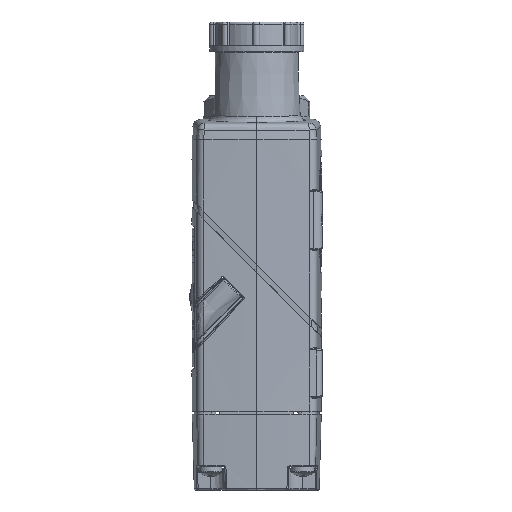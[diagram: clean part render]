
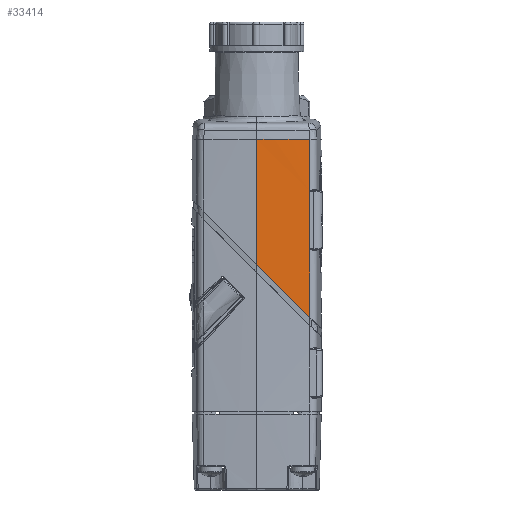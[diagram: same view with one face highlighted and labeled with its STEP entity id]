
A CAD part, left-side view. The second image highlights one B-rep face of the part: STEP entity #33414.
In plain terms, the highlighted cylindrical face has radius 195.5 mm (diameter 391 mm), a partial arc.
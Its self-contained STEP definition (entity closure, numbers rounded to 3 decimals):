
#1127 = EDGE_CURVE ( 'NONE', #21234, #5823, #54125, .T. ) ;
#2429 = DIRECTION ( 'NONE',  ( 0., 0., 1. ) ) ;
#2852 = CYLINDRICAL_SURFACE ( 'NONE', #25555, 195.5 ) ;
#3569 = CARTESIAN_POINT ( 'NONE',  ( -20.679, -8.989, 15.947 ) ) ;
#4437 = LINE ( 'NONE', #9150, #56989 ) ;
#5287 = ORIENTED_EDGE ( 'NONE', *, *, #54564, .T. ) ;
#5823 = VERTEX_POINT ( 'NONE', #20138 ) ;
#5931 = CARTESIAN_POINT ( 'NONE',  ( -20.679, -8.989, 27.546 ) ) ;
#6151 = VERTEX_POINT ( 'NONE', #23786 ) ;
#6616 = CARTESIAN_POINT ( 'NONE',  ( -20.679, -8.989, 37.283 ) ) ;
#7485 = VERTEX_POINT ( 'NONE', #13786 ) ;
#9150 = CARTESIAN_POINT ( 'NONE',  ( -20.679, -8.985, 48.714 ) ) ;
#9207 = CARTESIAN_POINT ( 'NONE',  ( 174.181, 6.823, 46.114 ) ) ;
#9463 = CARTESIAN_POINT ( 'NONE',  ( -20.679, -8.985, 37.275 ) ) ;
#11131 = CARTESIAN_POINT ( 'NONE',  ( -20.679, -8.987, 27.55 ) ) ;
#13026 = ORIENTED_EDGE ( 'NONE', *, *, #47746, .T. ) ;
#13786 = CARTESIAN_POINT ( 'NONE',  ( -21.2, 0., 46.114 ) ) ;
#14089 = LINE ( 'NONE', #26390, #54386 ) ;
#14406 = DIRECTION ( 'NONE',  ( 1., 0., 0. ) ) ;
#14618 = CARTESIAN_POINT ( 'NONE',  ( 174.181, 6.823, 48.714 ) ) ;
#14677 = CARTESIAN_POINT ( 'NONE',  ( -20.679, -8.987, 37.279 ) ) ;
#15473 = ORIENTED_EDGE ( 'NONE', *, *, #15490, .T. ) ;
#15490 = EDGE_CURVE ( 'NONE', #21744, #48465, #29473, .T. ) ;
#16382 = CARTESIAN_POINT ( 'NONE',  ( -20.679, -8.985, 27.555 ) ) ;
#16451 = ORIENTED_EDGE ( 'NONE', *, *, #1127, .T. ) ;
#16735 = AXIS2_PLACEMENT_3D ( 'NONE', #9207, #45903, #14406 ) ;
#19665 = DIRECTION ( 'NONE',  ( 0., 0., 1. ) ) ;
#19970 = CARTESIAN_POINT ( 'NONE',  ( -20.679, -8.989, 37.283 ) ) ;
#20138 = CARTESIAN_POINT ( 'NONE',  ( -20.679, -8.989, 46.114 ) ) ;
#21234 = VERTEX_POINT ( 'NONE', #6616 ) ;
#21684 = CARTESIAN_POINT ( 'NONE',  ( -20.679, -8.985, 27.559 ) ) ;
#21744 = VERTEX_POINT ( 'NONE', #28261 ) ;
#23158 = EDGE_CURVE ( 'NONE', #6151, #34424, #52055, .T. ) ;
#23786 = CARTESIAN_POINT ( 'NONE',  ( -20.679, -8.989, 27.546 ) ) ;
#23888 = EDGE_CURVE ( 'NONE', #7485, #5823, #51078, .T. ) ;
#24847 = CARTESIAN_POINT ( 'NONE',  ( -21.095, -3., 21.937 ) ) ;
#25468 = DIRECTION ( 'NONE',  ( -1., 0., 0. ) ) ;
#25555 = AXIS2_PLACEMENT_3D ( 'NONE', #14618, #61951, #25468 ) ;
#25993 = ORIENTED_EDGE ( 'NONE', *, *, #23888, .F. ) ;
#26390 = CARTESIAN_POINT ( 'NONE',  ( -20.679, -8.989, 48.714 ) ) ;
#26603 = DIRECTION ( 'NONE',  ( 0., 0., 1. ) ) ;
#27298 = EDGE_CURVE ( 'NONE', #48465, #6151, #14089, .T. ) ;
#27794 = VECTOR ( 'NONE', #2429, 1000. ) ;
#28261 = CARTESIAN_POINT ( 'NONE',  ( -21.2, 0., 24.937 ) ) ;
#29473 =( BOUNDED_CURVE ( )  B_SPLINE_CURVE ( 3, ( #30077, #24847, #66821, #35392 ),
 .UNSPECIFIED., .F., .T. ) 
 B_SPLINE_CURVE_WITH_KNOTS ( ( 4, 4 ),
 ( 4.747, 4.793 ),
 .UNSPECIFIED. ) 
 CURVE ( )  GEOMETRIC_REPRESENTATION_ITEM ( )  RATIONAL_B_SPLINE_CURVE ( ( 1., 1., 1., 1. ) ) 
 REPRESENTATION_ITEM ( '' )  );
#30077 = CARTESIAN_POINT ( 'NONE',  ( -21.2, 0., 24.937 ) ) ;
#33414 = ADVANCED_FACE ( 'NONE', ( #35659 ), #2852, .T. ) ;
#34424 = VERTEX_POINT ( 'NONE', #43128 ) ;
#34850 = LINE ( 'NONE', #56660, #47135 ) ;
#35392 = CARTESIAN_POINT ( 'NONE',  ( -20.679, -8.989, 15.947 ) ) ;
#35613 = CARTESIAN_POINT ( 'NONE',  ( -20.679, -8.985, 37.27 ) ) ;
#35659 = FACE_OUTER_BOUND ( 'NONE', #54134, .T. ) ;
#37339 = CARTESIAN_POINT ( 'NONE',  ( -20.679, -8.988, 27.548 ) ) ;
#40409 = ORIENTED_EDGE ( 'NONE', *, *, #56827, .T. ) ;
#40554 = CARTESIAN_POINT ( 'NONE',  ( -20.679, -8.985, 37.27 ) ) ;
#43128 = CARTESIAN_POINT ( 'NONE',  ( -20.679, -8.985, 27.559 ) ) ;
#45898 = VERTEX_POINT ( 'NONE', #40554 ) ;
#45903 = DIRECTION ( 'NONE',  ( 0., 0., 1. ) ) ;
#46153 = CARTESIAN_POINT ( 'NONE',  ( -20.679, -8.986, 37.277 ) ) ;
#47135 = VECTOR ( 'NONE', #61878, 1000. ) ;
#47746 = EDGE_CURVE ( 'NONE', #34424, #45898, #4437, .T. ) ;
#47824 = CARTESIAN_POINT ( 'NONE',  ( -20.679, -8.986, 27.553 ) ) ;
#48465 = VERTEX_POINT ( 'NONE', #3569 ) ;
#49396 = CARTESIAN_POINT ( 'NONE',  ( -20.679, -8.989, 48.714 ) ) ;
#51078 = CIRCLE ( 'NONE', #16735, 195.5 ) ;
#51447 = CARTESIAN_POINT ( 'NONE',  ( -20.679, -8.988, 37.281 ) ) ;
#52055 = B_SPLINE_CURVE_WITH_KNOTS ( 'NONE', 3,
 ( #5931, #37339, #11131, #47824, #16382, #53145, #21684 ),
 .UNSPECIFIED., .F., .F.,
 ( 4, 3, 4 ),
 ( 0., 0., 0. ),
 .UNSPECIFIED. ) ;
#53145 = CARTESIAN_POINT ( 'NONE',  ( -20.679, -8.985, 27.557 ) ) ;
#54125 = LINE ( 'NONE', #49396, #27794 ) ;
#54134 = EDGE_LOOP ( 'NONE', ( #13026, #5287, #16451, #25993, #40409, #15473, #61763, #64516 ) ) ;
#54386 = VECTOR ( 'NONE', #26603, 1000. ) ;
#54564 = EDGE_CURVE ( 'NONE', #45898, #21234, #58611, .T. ) ;
#56660 = CARTESIAN_POINT ( 'NONE',  ( -21.2, 0., 48.714 ) ) ;
#56827 = EDGE_CURVE ( 'NONE', #7485, #21744, #34850, .T. ) ;
#56989 = VECTOR ( 'NONE', #19665, 1000. ) ;
#58611 = B_SPLINE_CURVE_WITH_KNOTS ( 'NONE', 3,
 ( #35613, #67039, #9463, #46153, #14677, #51447, #19970 ),
 .UNSPECIFIED., .F., .F.,
 ( 4, 3, 4 ),
 ( 0., 0., 0. ),
 .UNSPECIFIED. ) ;
#61763 = ORIENTED_EDGE ( 'NONE', *, *, #27298, .T. ) ;
#61878 = DIRECTION ( 'NONE',  ( 0., 0., -1. ) ) ;
#61951 = DIRECTION ( 'NONE',  ( 0., 0., -1. ) ) ;
#64516 = ORIENTED_EDGE ( 'NONE', *, *, #23158, .T. ) ;
#66821 = CARTESIAN_POINT ( 'NONE',  ( -20.921, -5.997, 18.94 ) ) ;
#67039 = CARTESIAN_POINT ( 'NONE',  ( -20.679, -8.985, 37.272 ) ) ;
